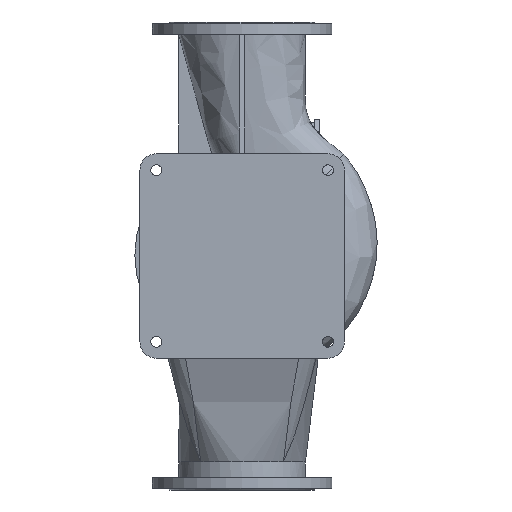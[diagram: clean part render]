
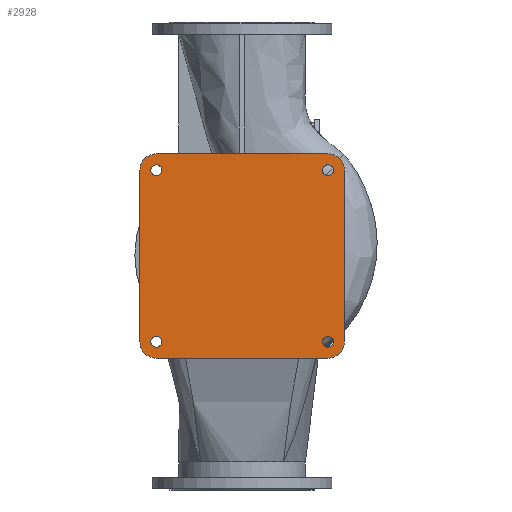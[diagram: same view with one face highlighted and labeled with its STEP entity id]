
A CAD part, front view. The second image highlights one B-rep face of the part: STEP entity #2928.
In plain terms, the highlighted planar face has unit normal (0, -1, 0).
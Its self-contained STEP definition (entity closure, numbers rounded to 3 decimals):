
#803=FACE_BOUND('',#6891,.T.);
#804=FACE_BOUND('',#6892,.T.);
#805=FACE_BOUND('',#6893,.T.);
#806=FACE_BOUND('',#6894,.T.);
#807=FACE_BOUND('',#6895,.T.);
#2186=PLANE('',#29367);
#2928=ADVANCED_FACE('',(#803,#804,#805,#806,#807),#2186,.T.);
#6891=EDGE_LOOP('',(#11205,#11206));
#6892=EDGE_LOOP('',(#11207,#11208));
#6893=EDGE_LOOP('',(#11209,#11210,#11211,#11212,#11213,#11214,#11215,#11216));
#6894=EDGE_LOOP('',(#11217,#11218));
#6895=EDGE_LOOP('',(#11219,#11220));
#8958=CIRCLE('',#29222,14.);
#8960=CIRCLE('',#29225,14.);
#8962=CIRCLE('',#29228,14.);
#8964=CIRCLE('',#29231,14.);
#9042=CIRCLE('',#29359,14.);
#9043=CIRCLE('',#29360,14.);
#9044=CIRCLE('',#29361,42.);
#9045=CIRCLE('',#29362,42.);
#9046=CIRCLE('',#29363,42.);
#9047=CIRCLE('',#29364,42.);
#9048=CIRCLE('',#29365,14.);
#9049=CIRCLE('',#29366,14.);
#11205=ORIENTED_EDGE('',*,*,#21926,.T.);
#11206=ORIENTED_EDGE('',*,*,#22148,.T.);
#11207=ORIENTED_EDGE('',*,*,#21934,.T.);
#11208=ORIENTED_EDGE('',*,*,#22149,.T.);
#11209=ORIENTED_EDGE('',*,*,#22150,.F.);
#11210=ORIENTED_EDGE('',*,*,#22151,.F.);
#11211=ORIENTED_EDGE('',*,*,#22152,.F.);
#11212=ORIENTED_EDGE('',*,*,#22153,.F.);
#11213=ORIENTED_EDGE('',*,*,#22154,.F.);
#11214=ORIENTED_EDGE('',*,*,#22155,.F.);
#11215=ORIENTED_EDGE('',*,*,#22156,.F.);
#11216=ORIENTED_EDGE('',*,*,#22157,.F.);
#11217=ORIENTED_EDGE('',*,*,#21930,.T.);
#11218=ORIENTED_EDGE('',*,*,#22158,.T.);
#11219=ORIENTED_EDGE('',*,*,#21922,.T.);
#11220=ORIENTED_EDGE('',*,*,#22159,.T.);
#19238=VERTEX_POINT('',#41675);
#19239=VERTEX_POINT('',#41677);
#19242=VERTEX_POINT('',#41684);
#19243=VERTEX_POINT('',#41686);
#19246=VERTEX_POINT('',#41693);
#19247=VERTEX_POINT('',#41695);
#19250=VERTEX_POINT('',#41702);
#19251=VERTEX_POINT('',#41704);
#19396=VERTEX_POINT('',#46832);
#19397=VERTEX_POINT('',#46833);
#19398=VERTEX_POINT('',#46835);
#19399=VERTEX_POINT('',#46837);
#19400=VERTEX_POINT('',#46839);
#19401=VERTEX_POINT('',#46841);
#19402=VERTEX_POINT('',#46843);
#19403=VERTEX_POINT('',#46845);
#21922=EDGE_CURVE('',#19239,#19238,#8958,.T.);
#21926=EDGE_CURVE('',#19243,#19242,#8960,.T.);
#21930=EDGE_CURVE('',#19247,#19246,#8962,.T.);
#21934=EDGE_CURVE('',#19251,#19250,#8964,.T.);
#22148=EDGE_CURVE('',#19242,#19243,#9042,.T.);
#22149=EDGE_CURVE('',#19250,#19251,#9043,.T.);
#22150=EDGE_CURVE('',#19396,#19397,#9044,.T.);
#22151=EDGE_CURVE('',#19398,#19396,#26057,.T.);
#22152=EDGE_CURVE('',#19399,#19398,#9045,.T.);
#22153=EDGE_CURVE('',#19400,#19399,#26058,.T.);
#22154=EDGE_CURVE('',#19401,#19400,#9046,.T.);
#22155=EDGE_CURVE('',#19402,#19401,#26059,.T.);
#22156=EDGE_CURVE('',#19403,#19402,#9047,.T.);
#22157=EDGE_CURVE('',#19397,#19403,#26060,.T.);
#22158=EDGE_CURVE('',#19246,#19247,#9048,.T.);
#22159=EDGE_CURVE('',#19238,#19239,#9049,.T.);
#26057=LINE('',#46834,#27608);
#26058=LINE('',#46838,#27609);
#26059=LINE('',#46842,#27610);
#26060=LINE('',#46846,#27611);
#27608=VECTOR('',#33374,1.);
#27609=VECTOR('',#33377,1.);
#27610=VECTOR('',#33380,1.);
#27611=VECTOR('',#33383,1.);
#29222=AXIS2_PLACEMENT_3D('',#41676,#33010,#33011);
#29225=AXIS2_PLACEMENT_3D('',#41685,#33018,#33019);
#29228=AXIS2_PLACEMENT_3D('',#41694,#33026,#33027);
#29231=AXIS2_PLACEMENT_3D('',#41703,#33034,#33035);
#29359=AXIS2_PLACEMENT_3D('',#46829,#33368,#33369);
#29360=AXIS2_PLACEMENT_3D('',#46830,#33370,#33371);
#29361=AXIS2_PLACEMENT_3D('',#46831,#33372,#33373);
#29362=AXIS2_PLACEMENT_3D('',#46836,#33375,#33376);
#29363=AXIS2_PLACEMENT_3D('',#46840,#33378,#33379);
#29364=AXIS2_PLACEMENT_3D('',#46844,#33381,#33382);
#29365=AXIS2_PLACEMENT_3D('',#46847,#33384,#33385);
#29366=AXIS2_PLACEMENT_3D('',#46848,#33386,#33387);
#29367=AXIS2_PLACEMENT_3D('',#46849,#33388,#33389);
#33010=DIRECTION('',(0.,1.,0.));
#33011=DIRECTION('',(0.,0.,1.));
#33018=DIRECTION('',(0.,1.,0.));
#33019=DIRECTION('',(0.,0.,1.));
#33026=DIRECTION('',(0.,1.,0.));
#33027=DIRECTION('',(0.,0.,1.));
#33034=DIRECTION('',(0.,1.,0.));
#33035=DIRECTION('',(0.,0.,1.));
#33368=DIRECTION('',(0.,1.,0.));
#33369=DIRECTION('',(0.,0.,1.));
#33370=DIRECTION('',(0.,1.,0.));
#33371=DIRECTION('',(0.,0.,1.));
#33372=DIRECTION('',(0.,1.,0.));
#33373=DIRECTION('',(0.,0.,-1.));
#33374=DIRECTION('',(0.,0.,-1.));
#33375=DIRECTION('',(0.,1.,0.));
#33376=DIRECTION('',(0.,0.,-1.));
#33377=DIRECTION('',(1.,0.,0.));
#33378=DIRECTION('',(0.,1.,0.));
#33379=DIRECTION('',(0.,0.,-1.));
#33380=DIRECTION('',(0.,0.,1.));
#33381=DIRECTION('',(0.,1.,0.));
#33382=DIRECTION('',(0.,0.,-1.));
#33383=DIRECTION('',(-1.,0.,0.));
#33384=DIRECTION('',(0.,1.,0.));
#33385=DIRECTION('',(0.,0.,1.));
#33386=DIRECTION('',(0.,1.,0.));
#33387=DIRECTION('',(0.,0.,1.));
#33388=DIRECTION('',(0.,-1.,0.));
#33389=DIRECTION('',(0.,0.,1.));
#41675=CARTESIAN_POINT('',(-220.,-285.,-206.));
#41676=CARTESIAN_POINT('',(-220.,-285.,-220.));
#41677=CARTESIAN_POINT('',(-220.,-285.,-234.));
#41684=CARTESIAN_POINT('',(-220.,-285.,234.));
#41685=CARTESIAN_POINT('',(-220.,-285.,220.));
#41686=CARTESIAN_POINT('',(-220.,-285.,206.));
#41693=CARTESIAN_POINT('',(220.,-285.,234.));
#41694=CARTESIAN_POINT('',(220.,-285.,220.));
#41695=CARTESIAN_POINT('',(220.,-285.,206.));
#41702=CARTESIAN_POINT('',(220.,-285.,-206.));
#41703=CARTESIAN_POINT('',(220.,-285.,-220.));
#41704=CARTESIAN_POINT('',(220.,-285.,-234.));
#46829=CARTESIAN_POINT('',(-220.,-285.,220.));
#46830=CARTESIAN_POINT('',(220.,-285.,-220.));
#46831=CARTESIAN_POINT('',(220.,-285.,-220.));
#46832=CARTESIAN_POINT('',(262.,-285.,-220.));
#46833=CARTESIAN_POINT('',(220.,-285.,-262.));
#46834=CARTESIAN_POINT('',(262.,-285.,-220.));
#46835=CARTESIAN_POINT('',(262.,-285.,220.));
#46836=CARTESIAN_POINT('',(220.,-285.,220.));
#46837=CARTESIAN_POINT('',(220.,-285.,262.));
#46838=CARTESIAN_POINT('',(220.,-285.,262.));
#46839=CARTESIAN_POINT('',(-220.,-285.,262.));
#46840=CARTESIAN_POINT('',(-220.,-285.,220.));
#46841=CARTESIAN_POINT('',(-262.,-285.,220.));
#46842=CARTESIAN_POINT('',(-262.,-285.,-220.));
#46843=CARTESIAN_POINT('',(-262.,-285.,-220.));
#46844=CARTESIAN_POINT('',(-220.,-285.,-220.));
#46845=CARTESIAN_POINT('',(-220.,-285.,-262.));
#46846=CARTESIAN_POINT('',(-220.,-285.,-262.));
#46847=CARTESIAN_POINT('',(220.,-285.,220.));
#46848=CARTESIAN_POINT('',(-220.,-285.,-220.));
#46849=CARTESIAN_POINT('',(220.,-285.,-220.));
